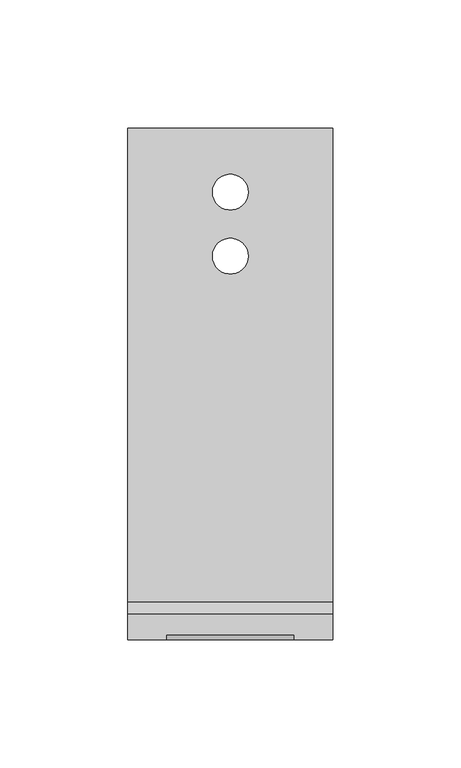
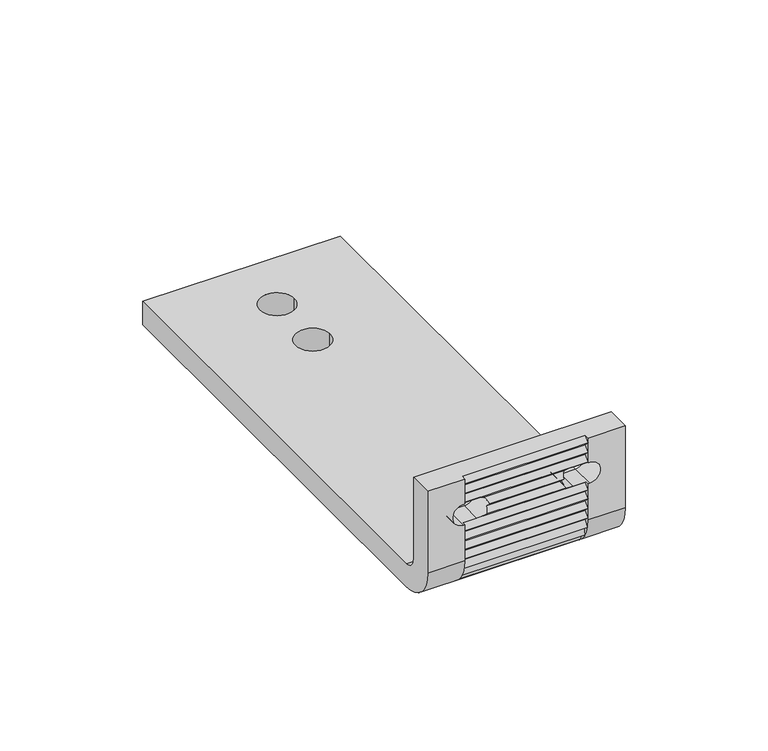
"""IFC4 building model written with IfcOpenShell, lengths in millimetres: fastener geometry, REC-PAA2005010R : PAA2005010R."""

from ifc_helpers import new_model, si_unit, frame, origin, place, context, project, spatial, polyline, circle_curve, ellipse_curve, source, transform, mapped, element, save
from ifc_brep_helpers import plane_surface, cylinder_surface, revolved_surface, advanced_brep


def fastener_e0390137(model_context):
    return source(origin(), model_context, "Body", "AdvancedBrep", [
        advanced_brep(
        [(6.9750156, -25.0249844, 10.0), (6.9750156, -25.0249844, 0.0), (-6.9750156, -25.0249844, 0.0), (-6.9750156, -25.0249844, 10.0), (6.9750156, -50.0249844, 10.0), (6.9750156, -50.0249844, 0.0), (-6.9750156, -50.0249844, 0.0), (-6.9750156, -50.0249844, 10.0), (-40.0, -185.0, 10.0), (-40.0, 0.0, 10.0), (-40.0, 0.0, 0.0), (-40.0, -185.0, 0.0), (-40.0, -200.0, 15.0), (-40.0, -200.0, 50.0), (-40.0, -190.0, 50.0), (-40.0, -190.0, 15.0), (40.0, -185.0, 10.0), (40.0, -190.0, 15.0), (40.0, -190.0, 50.0), (40.0, -200.0, 50.0), (40.0, -200.0, 15.0), (40.0, -185.0, 0.0), (40.0, 0.0, 0.0), (40.0, 0.0, 10.0), (25.0, -200.0, 15.0), (25.0, -193.1325332, 2.3959568), (-25.0, -193.1325332, 2.3959568), (-25.0, -200.0, 15.0), (-25.0, -200.0, 15.9794182), (-25.0, -200.0, 20.0), (-25.0, -200.0, 24.0), (-25.0, -200.0, 28.0), (-25.0, -200.0, 30.5), (-25.5, -200.0, 30.5), (-25.5, -200.0, 39.5), (-25.0, -200.0, 39.5), (-25.0, -200.0, 40.0), (-25.0, -200.0, 44.0), (-25.0, -200.0, 48.0), (-25.0, -200.0, 50.0), (25.0, -200.0, 50.0), (25.0, -200.0, 48.0), (25.0, -200.0, 44.0), (25.0, -200.0, 40.0), (25.0, -200.0, 39.5), (25.5, -200.0, 39.5), (25.5, -200.0, 30.5), (25.0, -200.0, 30.5), (25.0, -200.0, 28.0), (25.0, -200.0, 24.0), (25.0, -200.0, 20.0), (25.0, -200.0, 15.9794182), (-25.0, -198.0, 50.0), (25.0, -198.0, 50.0), (-25.5, -190.0, 30.5), (-19.5, -190.0, 30.5), (-19.5, -190.0, 39.5), (-25.5, -190.0, 39.5), (25.5, -190.0, 39.5), (19.5, -190.0, 39.5), (19.5, -190.0, 30.5), (25.5, -190.0, 30.5), (-25.0, -198.5, 30.5), (-19.5, -198.5, 30.5), (-16.145898, -200.0, 32.0), (-15.1125178, -198.0, 34.0), (-15.1125178, -200.0, 36.0), (-16.145898, -198.0, 38.0), (-19.5, -199.5, 39.5), (-25.0, -199.5, 39.5), (25.0, -199.5, 39.5), (19.5, -199.5, 39.5), (16.145898, -198.0, 38.0), (15.1125178, -200.0, 36.0), (15.1125178, -198.0, 34.0), (16.145898, -200.0, 32.0), (19.5, -198.5, 30.5), (25.0, -198.5, 30.5), (-25.0, -192.0919427, 4.1107321), (-25.0, -194.8462568, 3.9209125), (-25.0, -195.0407228, 6.7426465), (-25.0, -197.7320285, 7.4003541), (-25.0, -197.0605707, 10.1479248), (-25.0, -199.4290854, 11.5852291), (-25.0, -197.9617325, 14.0032605), (-25.0, -198.0, 18.0), (-25.0, -198.0, 22.0), (-25.0, -198.0, 26.0), (-25.0, -198.0, 30.0), (-25.0, -198.0, 42.0), (-25.0, -198.0, 46.0), (25.0, -198.0, 46.0), (25.0, -198.0, 42.0), (25.0, -198.0, 30.0), (25.0, -198.0, 26.0), (25.0, -198.0, 22.0), (25.0, -198.0, 18.0), (25.0, -197.9617325, 14.0032605), (25.0, -199.4290854, 11.5852291), (25.0, -197.0605707, 10.1479248), (25.0, -197.7320285, 7.4003541), (25.0, -195.0407228, 6.7426465), (25.0, -194.8462568, 3.9209125), (25.0, -192.0919427, 4.1107321)],
        [
            (0, 1),
            (1, 2, circle_curve(frame((0.0, -25.0249844, 0.0), z_axis=(0.0, 0.0, -1.0), x_axis=(0.0, 1.0, 0.0)), 6.9750156)),
            (2, 3),
            (3, 0, circle_curve(frame((0.0, -25.0249844, 10.0), z_axis=(0.0, 0.0, 1.0), x_axis=(0.0, 1.0, 0.0)), 6.9750156)),
            (0, 3, circle_curve(frame((0.0, -25.0249844, 10.0), z_axis=(0.0, 0.0, 1.0), x_axis=(0.0, -1.0, 0.0)), 6.9750156)),
            (2, 1, circle_curve(frame((0.0, -25.0249844, 0.0), z_axis=(0.0, 0.0, -1.0), x_axis=(0.0, -1.0, 0.0)), 6.9750156)),
            (4, 5),
            (5, 6, circle_curve(frame((0.0, -50.0249844, 0.0), z_axis=(0.0, 0.0, -1.0), x_axis=(0.0, 1.0, 0.0)), 6.9750156)),
            (6, 7),
            (7, 4, circle_curve(frame((0.0, -50.0249844, 10.0), z_axis=(0.0, 0.0, 1.0), x_axis=(0.0, 1.0, 0.0)), 6.9750156)),
            (4, 7, circle_curve(frame((0.0, -50.0249844, 10.0), z_axis=(0.0, 0.0, 1.0), x_axis=(0.0, -1.0, 0.0)), 6.9750156)),
            (6, 5, circle_curve(frame((0.0, -50.0249844, 0.0), z_axis=(0.0, 0.0, -1.0), x_axis=(0.0, -1.0, 0.0)), 6.9750156)),
            (8, 9),
            (9, 10),
            (10, 11),
            (11, 12, circle_curve(frame((-40.0, -185.0, 15.0), z_axis=(-1.0, 0.0, 0.0), x_axis=(0.0, -1.0, 0.0)), 15.0)),
            (12, 13),
            (13, 14),
            (14, 15),
            (15, 8, circle_curve(frame((-40.0, -185.0, 15.0), z_axis=(1.0, 0.0, 0.0), x_axis=(0.0, -1.0, 0.0)), 5.0)),
            (16, 17, circle_curve(frame((40.0, -185.0, 15.0), z_axis=(-1.0, 0.0, 0.0), x_axis=(0.0, -1.0, 0.0)), 5.0)),
            (17, 18),
            (18, 19),
            (19, 20),
            (20, 21, circle_curve(frame((40.0, -185.0, 15.0), z_axis=(1.0, 0.0, 0.0), x_axis=(0.0, -1.0, 0.0)), 15.0)),
            (21, 22),
            (22, 23),
            (23, 16),
            (8, 16),
            (23, 9),
            (22, 10),
            (21, 11),
            (20, 24),
            (24, 25, circle_curve(frame((25.0, -185.0, 15.0), z_axis=(1.0, 0.0, 0.0), x_axis=(0.0, -1.0, 0.0)), 15.0)),
            (25, 26),
            (26, 27, circle_curve(frame((-25.0, -185.0, 15.0), z_axis=(-1.0, 0.0, 0.0), x_axis=(0.0, -1.0, 0.0)), 15.0)),
            (27, 12),
            (27, 28),
            (28, 29),
            (29, 30),
            (30, 31),
            (31, 32),
            (32, 33),
            (33, 34, circle_curve(frame((-25.5, -200.0, 35.0), z_axis=(0.0, 1.0, 0.0), x_axis=(0.0, 0.0, 1.0)), 4.5)),
            (34, 35),
            (35, 36),
            (36, 37),
            (37, 38),
            (38, 39),
            (39, 13),
            (19, 40),
            (40, 41),
            (41, 42),
            (42, 43),
            (43, 44),
            (44, 45),
            (45, 46, circle_curve(frame((25.5, -200.0, 35.0), z_axis=(0.0, 1.0, 0.0), x_axis=(0.0, 0.0, 1.0)), 4.5)),
            (46, 47),
            (47, 48),
            (48, 49),
            (49, 50),
            (50, 51),
            (51, 24),
            (39, 52),
            (52, 53),
            (53, 40),
            (18, 14),
            (17, 15),
            (54, 55),
            (55, 56, circle_curve(frame((-19.5, -190.0, 35.0), z_axis=(0.0, -1.0, 0.0), x_axis=(0.0, 0.0, 1.0)), 4.5)),
            (56, 57),
            (57, 54, circle_curve(frame((-25.5, -190.0, 35.0), z_axis=(0.0, -1.0, 0.0), x_axis=(0.0, 0.0, 1.0)), 4.5)),
            (58, 59),
            (59, 60, circle_curve(frame((19.5, -190.0, 35.0), z_axis=(0.0, -1.0, 0.0), x_axis=(0.0, 0.0, 1.0)), 4.5)),
            (60, 61),
            (61, 58, circle_curve(frame((25.5, -190.0, 35.0), z_axis=(0.0, -1.0, 0.0), x_axis=(0.0, 0.0, 1.0)), 4.5)),
            (54, 33),
            (32, 62),
            (62, 63),
            (63, 55),
            (63, 64, ellipse_curve(frame((-19.5, -203.0, 35.0), z_axis=(0.0, -0.7071067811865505, -0.7071067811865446), x_axis=(0.0, -0.7071067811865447, 0.7071067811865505)), 6.363961, 4.5)),
            (64, 65, ellipse_curve(frame((-19.5, -197.0, 35.0), z_axis=(0.0, -0.7071067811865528, 0.7071067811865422), x_axis=(0.0, -0.7071067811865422, -0.7071067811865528)), 6.363961, 4.5)),
            (65, 66, ellipse_curve(frame((-19.5, -199.0, 35.0), z_axis=(0.0, -0.7071067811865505, -0.7071067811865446), x_axis=(0.0, -0.7071067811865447, 0.7071067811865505)), 6.363961, 4.5)),
            (66, 67, ellipse_curve(frame((-19.5, -201.0, 35.0), z_axis=(0.0, -0.7071067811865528, 0.7071067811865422), x_axis=(0.0, -0.7071067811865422, -0.7071067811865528)), 6.363961, 4.5)),
            (67, 68, ellipse_curve(frame((-19.5, -195.0, 35.0), z_axis=(0.0, -0.7071067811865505, -0.7071067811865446), x_axis=(0.0, -0.7071067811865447, 0.7071067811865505)), 6.363961, 4.5)),
            (68, 56),
            (34, 57),
            (68, 69),
            (69, 35),
            (58, 45),
            (44, 70),
            (70, 71),
            (71, 59),
            (71, 72, ellipse_curve(frame((19.5, -195.0, 35.0), z_axis=(0.0, -0.7071067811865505, -0.7071067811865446), x_axis=(0.0, -0.7071067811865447, 0.7071067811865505)), 6.363961, 4.5)),
            (72, 73, ellipse_curve(frame((19.5, -201.0, 35.0), z_axis=(0.0, -0.7071067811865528, 0.7071067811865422), x_axis=(0.0, -0.7071067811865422, -0.7071067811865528)), 6.363961, 4.5)),
            (73, 74, ellipse_curve(frame((19.5, -199.0, 35.0), z_axis=(0.0, -0.7071067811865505, -0.7071067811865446), x_axis=(0.0, -0.7071067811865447, 0.7071067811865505)), 6.363961, 4.5)),
            (74, 75, ellipse_curve(frame((19.5, -197.0, 35.0), z_axis=(0.0, -0.7071067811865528, 0.7071067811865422), x_axis=(0.0, -0.7071067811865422, -0.7071067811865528)), 6.363961, 4.5)),
            (75, 76, ellipse_curve(frame((19.5, -203.0, 35.0), z_axis=(0.0, -0.7071067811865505, -0.7071067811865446), x_axis=(0.0, -0.7071067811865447, 0.7071067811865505)), 6.363961, 4.5)),
            (76, 60),
            (46, 61),
            (76, 77),
            (77, 47),
            (78, 79),
            (79, 80),
            (80, 81),
            (81, 82),
            (82, 83),
            (83, 84),
            (84, 28),
            (26, 78),
            (28, 85),
            (85, 29),
            (29, 86),
            (86, 30),
            (30, 87),
            (87, 31),
            (31, 88),
            (88, 62),
            (36, 89),
            (89, 37),
            (37, 90),
            (90, 38),
            (38, 52),
            (69, 36),
            (53, 41),
            (41, 91),
            (91, 42),
            (42, 92),
            (92, 43),
            (93, 48),
            (77, 93),
            (48, 94),
            (94, 49),
            (49, 95),
            (95, 50),
            (50, 96),
            (96, 51),
            (51, 97),
            (97, 98),
            (98, 99),
            (99, 100),
            (100, 101),
            (101, 102),
            (102, 103),
            (103, 25),
            (43, 70),
            (103, 78),
            (38, 41),
            (90, 91),
            (37, 42),
            (89, 92),
            (36, 43),
            (67, 72),
            (66, 73),
            (65, 74),
            (64, 75),
            (88, 93),
            (31, 48),
            (87, 94),
            (30, 49),
            (86, 95),
            (29, 50),
            (85, 96),
            (28, 51),
            (84, 97),
            (83, 98),
            (82, 99),
            (81, 100),
            (80, 101),
            (79, 102),
        ],
        [
            revolved_surface(polyline([(0.0, -18.049968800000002, 10.0), (0.0, -18.049968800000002, 0.0)]), (0.0, -25.0249844, 0.0), (0.0, 0.0, 1.0)),
            revolved_surface(polyline([(0.0, -32.0, 10.0), (0.0, -32.0, 0.0)]), (0.0, -25.0249844, 0.0), (0.0, 0.0, 1.0)),
            revolved_surface(polyline([(0.0, -43.0499688, 10.0), (0.0, -43.0499688, 0.0)]), (0.0, -50.0249844, -55.0), (0.0, 0.0, 1.0)),
            revolved_surface(polyline([(0.0, -57.0, 10.0), (0.0, -57.0, 0.0)]), (0.0, -50.0249844, -55.0), (0.0, 0.0, 1.0)),
            plane_surface(frame((-40.0, 40.0, 10.0), z_axis=(-1.0, 0.0, 0.0), x_axis=(0.0, 1.0, 0.0))),
            plane_surface(frame((40.0, 40.0, 10.0), z_axis=(1.0, 0.0, 0.0), x_axis=(0.0, -1.0, 0.0))),
            plane_surface(frame((-40.0, -185.0, 10.0), z_axis=(0.0, 0.0, 1.0), x_axis=(1.0, 0.0, 0.0))),
            plane_surface(frame((-40.0, 0.0, 10.0), z_axis=(0.0, 1.0, 0.0), x_axis=(1.0, 0.0, 0.0))),
            plane_surface(frame((-40.0, 0.0, 0.0), z_axis=(0.0, 0.0, -1.0), x_axis=(1.0, 0.0, 0.0))),
            cylinder_surface(frame((40.0, -185.0, 15.0), z_axis=(-1.0, 0.0, 0.0), x_axis=(0.0, -1.0, 0.0)), 15.0),
            plane_surface(frame((-40.0, -200.0, 15.0), z_axis=(0.0, -1.0, 0.0), x_axis=(1.0, 0.0, 0.0))),
            plane_surface(frame((-40.0, -200.0, 50.0), z_axis=(0.0, 0.0, 1.0), x_axis=(1.0, 0.0, 0.0))),
            plane_surface(frame((-40.0, -190.0, 50.0), z_axis=(0.0, 1.0, 0.0), x_axis=(1.0, 0.0, 0.0))),
            revolved_surface(polyline([(40.0, -190.0, 15.0), (-40.0, -190.0, 15.0)]), (40.0, -185.0, 15.0), (1.0, 0.0, 0.0)),
            plane_surface(frame((-25.5, -200.0, 30.5), z_axis=(0.0, 0.0, 1.0), x_axis=(0.0, 1.0, 0.0))),
            revolved_surface(polyline([(-19.5, -207.4999999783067, 39.5), (-19.5, -190.0, 39.5)]), (-19.5, -190.0, 35.0), (0.0, -1.0, 0.0)),
            plane_surface(frame((-19.5, -200.0, 39.5), z_axis=(0.0, 0.0, -1.0), x_axis=(0.0, 1.0, 0.0))),
            revolved_surface(polyline([(-25.5, -200.0, 39.5), (-25.5, -190.0, 39.5)]), (-25.5, -190.0, 35.0), (0.0, -1.0, 0.0)),
            plane_surface(frame((25.5, -200.0, 39.5), z_axis=(0.0, 0.0, -1.0), x_axis=(0.0, 1.0, 0.0))),
            revolved_surface(polyline([(19.5, -207.4999999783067, 39.5), (19.5, -190.0, 39.5)]), (19.5, 0.0, 35.0), (0.0, -1.0, 0.0)),
            plane_surface(frame((19.5, -200.0, 30.5), z_axis=(0.0, 0.0, 1.0), x_axis=(0.0, 1.0, 0.0))),
            revolved_surface(polyline([(25.5, -200.0, 39.5), (25.5, -190.0, 39.5)]), (25.5, 0.0, 35.0), (0.0, -1.0, 0.0)),
            plane_surface(frame((-25.0, -198.0, 50.0), z_axis=(1.0, 0.0, 0.0), x_axis=(0.0, -0.7071067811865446, -0.7071067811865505))),
            plane_surface(frame((25.0, -198.0, 50.0), z_axis=(-1.0, 0.0, 0.0), x_axis=(0.0, 0.7071067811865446, 0.7071067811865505))),
            plane_surface(frame((-25.0, -192.0919427, 4.1107321), z_axis=(0.0, -0.8549031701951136, 0.5187875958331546), x_axis=(1.0, 0.0, 0.0))),
            plane_surface(frame((-25.0, -198.0, 50.0), z_axis=(0.0, -0.7071067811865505, 0.7071067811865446), x_axis=(1.0, 0.0, 0.0))),
            plane_surface(frame((-25.0, -200.0, 48.0), z_axis=(0.0, -0.7071067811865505, -0.7071067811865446), x_axis=(1.0, 0.0, 0.0))),
            plane_surface(frame((-25.0, -198.0, 46.0), z_axis=(0.0, -0.707106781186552, 0.7071067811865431), x_axis=(1.0, 0.0, 0.0))),
            plane_surface(frame((-25.0, -200.0, 44.0), z_axis=(0.0, -0.7071067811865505, -0.7071067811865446), x_axis=(1.0, 0.0, 0.0))),
            plane_surface(frame((-25.0, -198.0, 42.0), z_axis=(0.0, -0.707106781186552, 0.7071067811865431), x_axis=(1.0, 0.0, 0.0))),
            plane_surface(frame((-25.0, -200.0, 40.0), z_axis=(0.0, -0.7071067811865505, -0.7071067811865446), x_axis=(1.0, 0.0, 0.0))),
            plane_surface(frame((-25.0, -198.0, 38.0), z_axis=(0.0, -0.7071067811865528, 0.7071067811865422), x_axis=(1.0, 0.0, 0.0))),
            plane_surface(frame((-25.0, -200.0, 36.0), z_axis=(0.0, -0.7071067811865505, -0.7071067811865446), x_axis=(1.0, 0.0, 0.0))),
            plane_surface(frame((-25.0, -198.0, 34.0), z_axis=(0.0, -0.7071067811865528, 0.7071067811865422), x_axis=(1.0, 0.0, 0.0))),
            plane_surface(frame((-25.0, -200.0, 32.0), z_axis=(0.0, -0.7071067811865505, -0.7071067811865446), x_axis=(1.0, 0.0, 0.0))),
            plane_surface(frame((-25.0, -198.0, 30.0), z_axis=(0.0, -0.7071067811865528, 0.7071067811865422), x_axis=(1.0, 0.0, 0.0))),
            plane_surface(frame((-25.0, -200.0, 28.0), z_axis=(0.0, -0.7071067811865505, -0.7071067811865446), x_axis=(1.0, 0.0, 0.0))),
            plane_surface(frame((-25.0, -198.0, 26.0), z_axis=(0.0, -0.7071067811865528, 0.7071067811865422), x_axis=(1.0, 0.0, 0.0))),
            plane_surface(frame((-25.0, -200.0, 24.0), z_axis=(0.0, -0.7071067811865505, -0.7071067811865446), x_axis=(1.0, 0.0, 0.0))),
            plane_surface(frame((-25.0, -198.0, 22.0), z_axis=(0.0, -0.7071067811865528, 0.7071067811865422), x_axis=(1.0, 0.0, 0.0))),
            plane_surface(frame((-25.0, -200.0, 20.0), z_axis=(0.0, -0.707106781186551, -0.7071067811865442), x_axis=(1.0, 0.0, 0.0))),
            plane_surface(frame((-25.0, -198.0, 18.0), z_axis=(0.0, -0.7143835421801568, 0.6997543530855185), x_axis=(1.0, 0.0, 0.0))),
            plane_surface(frame((-25.0, -199.9792042, 15.9794182), z_axis=(0.0, -0.6997543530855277, -0.7143835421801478), x_axis=(1.0, 0.0, 0.0))),
            plane_surface(frame((-25.0, -197.9617325, 14.0032605), z_axis=(0.0, -0.854903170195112, 0.5187875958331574), x_axis=(1.0, 0.0, 0.0))),
            plane_surface(frame((-25.0, -199.4290854, 11.5852291), z_axis=(0.0, -0.5187875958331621, -0.8549031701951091), x_axis=(1.0, 0.0, 0.0))),
            plane_surface(frame((-25.0, -197.0605707, 10.1479248), z_axis=(0.0, -0.9714129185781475, 0.2373961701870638), x_axis=(1.0, 0.0, 0.0))),
            plane_surface(frame((-25.0, -197.7320285, 7.4003541), z_axis=(0.0, -0.23739617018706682, -0.9714129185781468), x_axis=(1.0, 0.0, 0.0))),
            plane_surface(frame((-25.0, -195.0407228, 6.7426465), z_axis=(0.0, -0.9976336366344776, -0.06875410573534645), x_axis=(1.0, 0.0, 0.0))),
            plane_surface(frame((-25.0, -194.8462568, 3.9209125), z_axis=(0.0, 0.06875410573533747, -0.9976336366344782), x_axis=(1.0, 0.0, 0.0))),
        ],
        [
            (0, [[1, 2, 3, 4]]),
            (1, [[-1, 5, -3, 6]]),
            (2, [[7, 8, 9, 10]]),
            (3, [[-7, 11, -9, 12]]),
            (4, [[13, 14, 15, 16, 17, 18, 19, 20]]),
            (5, [[21, 22, 23, 24, 25, 26, 27, 28]]),
            (6, [[-13, 29, -28, 30], [-4, -5], [-10, -11]]),
            (7, [[-14, -30, -27, 31]]),
            (8, [[-15, -31, -26, 32], [-2, -6], [-8, -12]]),
            (9, [[-16, -32, -25, 33, 34, 35, 36, 37]]),
            (10, [[-17, -37, 38, 39, 40, 41, 42, 43, 44, 45, 46, 47, 48, 49, 50]]),
            (10, [[-24, 51, 52, 53, 54, 55, 56, 57, 58, 59, 60, 61, 62, 63, -33]]),
            (11, [[-18, -50, 64, 65, 66, -51, -23, 67]]),
            (12, [[-19, -67, -22, 68], [69, 70, 71, 72], [73, 74, 75, 76]]),
            (13, [[-20, -68, -21, -29]]),
            (14, [[77, -43, 78, 79, 80, -69]]),
            (15, [[-70, -80, 81, 82, 83, 84, 85, 86]]),
            (16, [[87, -71, -86, 88, 89, -45]]),
            (17, [[-77, -72, -87, -44]]),
            (18, [[90, -56, 91, 92, 93, -73]]),
            (19, [[-74, -93, 94, 95, 96, 97, 98, 99]]),
            (20, [[100, -75, -99, 101, 102, -58]]),
            (21, [[-90, -76, -100, -57]]),
            (22, [[103, 104, 105, 106, 107, 108, 109, -38, -36, 110]]),
            (22, [[111, 112, -39]]),
            (22, [[113, 114, -40]]),
            (22, [[115, 116, -41]]),
            (22, [[117, 118, -78, -42]]),
            (22, [[119, 120, -47]]),
            (22, [[121, 122, -48]]),
            (22, [[123, -64, -49]]),
            (22, [[124, -46, -89]]),
            (23, [[125, -52, -66]]),
            (23, [[126, 127, -53]]),
            (23, [[128, 129, -54]]),
            (23, [[130, -59, -102, 131]]),
            (23, [[132, 133, -60]]),
            (23, [[134, 135, -61]]),
            (23, [[136, 137, -62]]),
            (23, [[138, 139, 140, 141, 142, 143, 144, 145, -34, -63]]),
            (23, [[146, -91, -55]]),
            (24, [[147, -110, -35, -145]]),
            (25, [[-123, 148, -125, -65]]),
            (26, [[-122, 149, -126, -148]]),
            (27, [[-121, 150, -127, -149]]),
            (28, [[-120, 151, -128, -150]]),
            (29, [[-119, 152, -129, -151]]),
            (30, [[-152, -124, -88, -85, 153, -94, -92, -146]]),
            (31, [[154, -95, -153, -84]]),
            (32, [[-154, -83, 155, -96]]),
            (33, [[156, -97, -155, -82]]),
            (34, [[157, -131, -101, -98, -156, -81, -79, -118]]),
            (35, [[-117, 158, -130, -157]]),
            (36, [[-116, 159, -132, -158]]),
            (37, [[-115, 160, -133, -159]]),
            (38, [[-114, 161, -134, -160]]),
            (39, [[-113, 162, -135, -161]]),
            (40, [[-112, 163, -136, -162]]),
            (41, [[-111, 164, -137, -163]]),
            (42, [[-109, 165, -138, -164]]),
            (43, [[-108, 166, -139, -165]]),
            (44, [[-107, 167, -140, -166]]),
            (45, [[-106, 168, -141, -167]]),
            (46, [[-105, 169, -142, -168]]),
            (47, [[-104, 170, -143, -169]]),
            (48, [[-103, -147, -144, -170]]),
        ],
    ),
    ])


if __name__ == "__main__":
    model = new_model("IFC4")
    model_context = context("Model", 3, world=origin())
    ifc_project = project(units=[si_unit("LENGTHUNIT", "METRE", prefix="MILLI")], contexts=[model_context])
    site = spatial("IfcSite", under=ifc_project)
    building = spatial("IfcBuilding", under=site)
    placement = place(None, origin())
    fastener_shape = fastener_e0390137(model_context)
    element("IfcFastener", 1, ObjectType="REC-PAA2005010R : PAA2005010R", at=placement, inside=building, context=model_context, shape_type="MappedRepresentation", body=[
        mapped(fastener_shape, transform((0.0, 0.0, 0.0), x_axis=(1.0, 0.0, 0.0), y_axis=(0.0, 1.0, 0.0), z_axis=(0.0, 0.0, 1.0))),
    ])
    save(model, "model.ifc")
